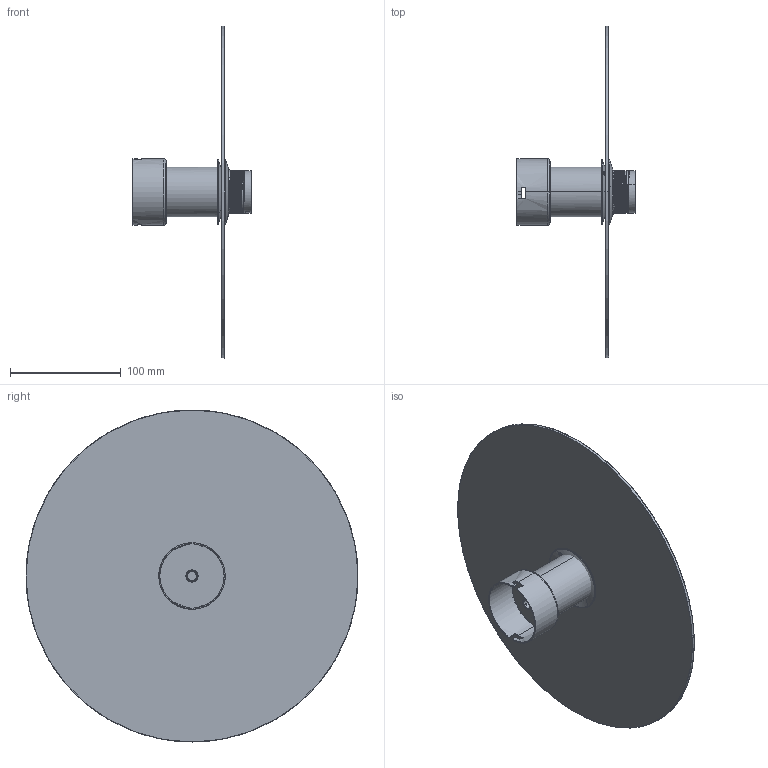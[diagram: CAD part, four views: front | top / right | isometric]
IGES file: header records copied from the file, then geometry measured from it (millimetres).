
Start section: SolidWorks IGES file using analytic representation for surfaces
Global section: file name: C:\Users\adrian\Desktop\MODELADOS USA\NOLD\A1226.IGS; native system: SolidWorks 2023; preprocessor: SolidWorks 2023; author: adrian; date: 260609.125144; units: inch
Bounding box: 106.74 x 299.97 x 299.97 mm (x, y, z)
Surface area: 194294.1 mm2 (no closed solid volume)
Topology: 0 solids, 0 shells, 229 faces, 5952 edges, 5952 vertices
Faces by surface type: bspline 227, revolution 2
